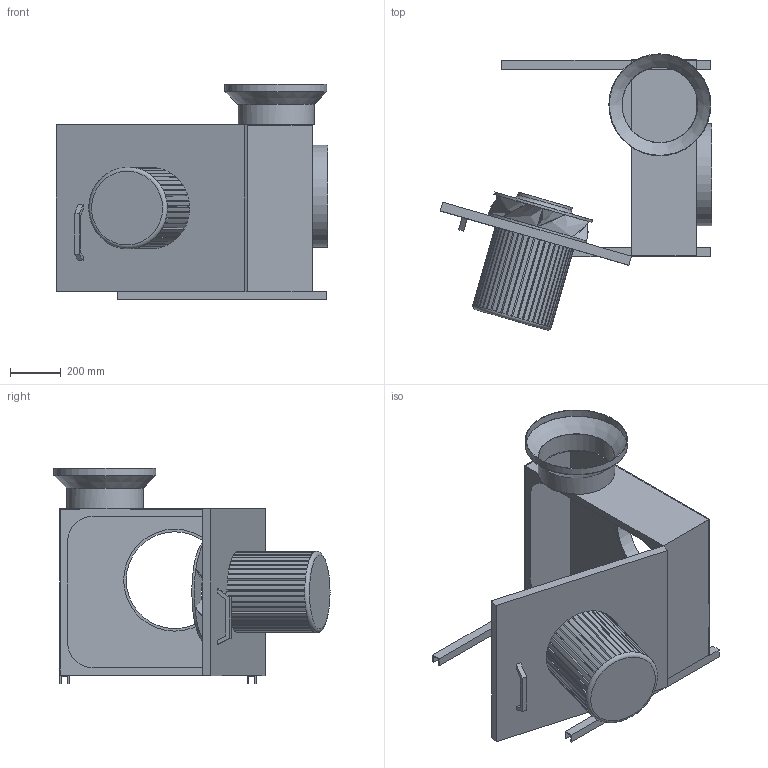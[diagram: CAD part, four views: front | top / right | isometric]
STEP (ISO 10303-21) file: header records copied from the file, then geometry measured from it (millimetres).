
FILE_DESCRIPTION(/* description */ (''),/* implementation_level */ '2;1');
FILE_NAME(/* name */ 'Z:\Output\MBD_EC_400_A-05855-001.stp',/* time_stamp */ '2017-08-02T11:56:42+02:00',/* author */ ('jayeshpanchal'),/* organization */ (''),/* preprocessor_version */ 'ST-DEVELOPER v16.5',/* originating_system */ 'Autodesk Inventor 2017',/* authorisation */ '');
FILE_SCHEMA (('AUTOMOTIVE_DESIGN { 1 0 10303 214 3 1 1 }'));
Length unit declared in the file: millimetre
Products named in the file (1): MB-1
Bounding box: 1066.09 x 1082.9 x 847 mm (x, y, z)
Volume: 50652390.5 mm3; surface area: 5519175.2 mm2
Topology: 2 solids, 2 shells, 373 faces, 965 edges, 585 vertices
Faces by surface type: plane 285, cylinder 60, bspline 24, cone 2, torus 2
Full cylindrical faces by diameter (mm): 200 x1, 220 x1, 296 x1, 300 x1, 380 x1, 396 x1, 400 x5
Entity records: 11513 total; most frequent: CARTESIAN_POINT 2465, ORIENTED_EDGE 1892, DIRECTION 1837, EDGE_CURVE 944, LINE 703, VECTOR 703, VERTEX_POINT 579, AXIS2_PLACEMENT_3D 567
